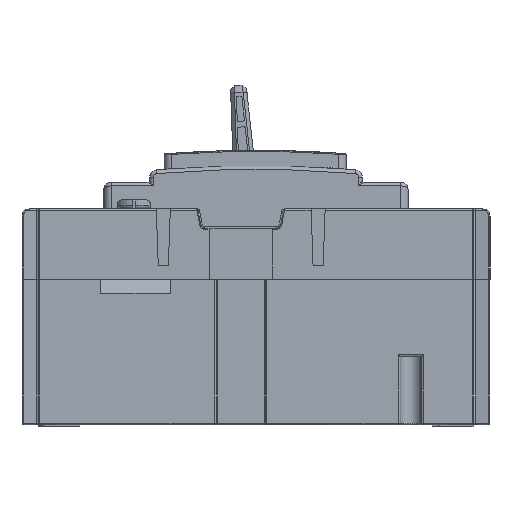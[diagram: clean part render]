
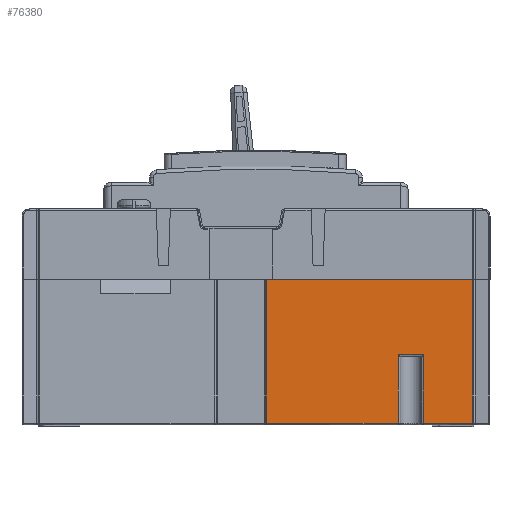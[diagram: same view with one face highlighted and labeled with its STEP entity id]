
A CAD part, front view. The second image highlights one B-rep face of the part: STEP entity #76380.
In plain terms, the highlighted planar face has unit normal (0, -1, 0).
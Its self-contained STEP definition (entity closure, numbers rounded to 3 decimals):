
#6042=LINE('',#125905,#14235);
#6044=LINE('',#125911,#14237);
#6046=LINE('',#125917,#14239);
#6137=LINE('',#126156,#14330);
#6140=LINE('',#126169,#14333);
#6247=LINE('',#126695,#14440);
#6248=LINE('',#126696,#14441);
#6249=LINE('',#126697,#14442);
#14235=VECTOR('',#96348,7.);
#14237=VECTOR('',#96354,19.);
#14239=VECTOR('',#96360,19.);
#14330=VECTOR('',#96559,40.);
#14333=VECTOR('',#96570,40.);
#14440=VECTOR('',#96859,13.7);
#14441=VECTOR('',#96860,57.3);
#14442=VECTOR('',#96861,36.6);
#21821=FACE_OUTER_BOUND('',#26124,.T.);
#26124=EDGE_LOOP('',(#60731,#60732,#60733,#60734,#60735,#60736,#60737,#60738));
#34636=VERTEX_POINT('',#125901);
#34637=VERTEX_POINT('',#125903);
#34638=VERTEX_POINT('',#125907);
#34641=VERTEX_POINT('',#125915);
#34714=VERTEX_POINT('',#126154);
#34715=VERTEX_POINT('',#126155);
#34720=VERTEX_POINT('',#126166);
#34721=VERTEX_POINT('',#126168);
#43828=EDGE_CURVE('',#34636,#34637,#6042,.T.);
#43831=EDGE_CURVE('',#34638,#34636,#6044,.T.);
#43834=EDGE_CURVE('',#34637,#34641,#6046,.T.);
#43947=EDGE_CURVE('',#34714,#34715,#6137,.F.);
#43953=EDGE_CURVE('',#34721,#34720,#6140,.T.);
#44130=EDGE_CURVE('',#34641,#34714,#6247,.F.);
#44131=EDGE_CURVE('',#34715,#34721,#6248,.F.);
#44132=EDGE_CURVE('',#34720,#34638,#6249,.F.);
#60731=ORIENTED_EDGE('',*,*,#43834,.T.);
#60732=ORIENTED_EDGE('',*,*,#44130,.T.);
#60733=ORIENTED_EDGE('',*,*,#43947,.T.);
#60734=ORIENTED_EDGE('',*,*,#44131,.T.);
#60735=ORIENTED_EDGE('',*,*,#43953,.T.);
#60736=ORIENTED_EDGE('',*,*,#44132,.T.);
#60737=ORIENTED_EDGE('',*,*,#43831,.T.);
#60738=ORIENTED_EDGE('',*,*,#43828,.T.);
#72777=PLANE('',#82474);
#76380=ADVANCED_FACE('',(#21821),#72777,.T.);
#82474=AXIS2_PLACEMENT_3D('',#126694,#96857,#96858);
#96348=DIRECTION('',(1.,0.,0.));
#96354=DIRECTION('',(0.,0.,1.));
#96360=DIRECTION('',(0.,0.,-1.));
#96559=DIRECTION('',(0.,0.,-1.));
#96570=DIRECTION('',(0.,0.,-1.));
#96857=DIRECTION('center_axis',(0.,-1.,0.));
#96858=DIRECTION('ref_axis',(0.,0.,-1.));
#96859=DIRECTION('',(-1.,0.,0.));
#96860=DIRECTION('',(1.,0.,0.));
#96861=DIRECTION('',(-1.,0.,0.));
#125901=CARTESIAN_POINT('',(39.401,-167.5,-21.));
#125903=CARTESIAN_POINT('',(46.401,-167.5,-21.));
#125905=CARTESIAN_POINT('',(39.401,-167.5,-21.));
#125907=CARTESIAN_POINT('',(39.401,-167.5,-40.));
#125911=CARTESIAN_POINT('',(39.401,-167.5,-40.));
#125915=CARTESIAN_POINT('',(46.401,-167.5,-40.));
#125917=CARTESIAN_POINT('',(46.401,-167.5,-21.));
#126154=CARTESIAN_POINT('',(60.101,-167.5,-40.));
#126155=CARTESIAN_POINT('',(60.101,-167.5,0.));
#126156=CARTESIAN_POINT('',(60.101,-167.5,0.));
#126166=CARTESIAN_POINT('',(2.801,-167.5,-40.));
#126168=CARTESIAN_POINT('',(2.801,-167.5,0.));
#126169=CARTESIAN_POINT('',(2.801,-167.5,0.));
#126694=CARTESIAN_POINT('Origin',(-61.149,-167.5,0.));
#126695=CARTESIAN_POINT('',(60.101,-167.5,-40.));
#126696=CARTESIAN_POINT('',(2.801,-167.5,0.));
#126697=CARTESIAN_POINT('',(39.401,-167.5,-40.));
